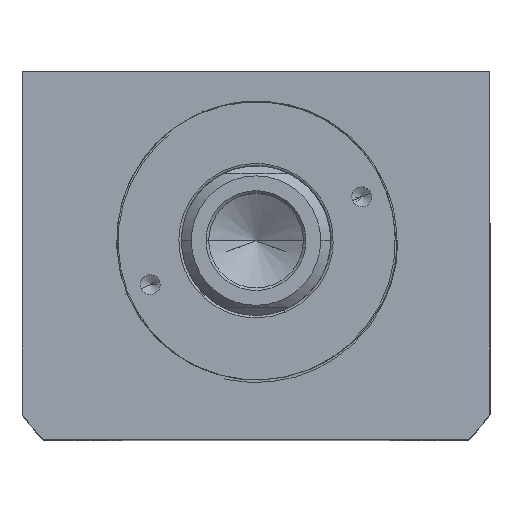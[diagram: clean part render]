
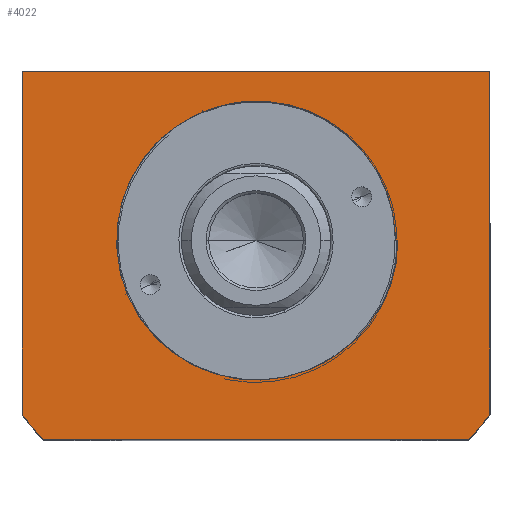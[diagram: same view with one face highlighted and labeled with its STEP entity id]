
A CAD part, top view. The second image highlights one B-rep face of the part: STEP entity #4022.
In plain terms, the highlighted planar face has unit normal (0, 0, 1).
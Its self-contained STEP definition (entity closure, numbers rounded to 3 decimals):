
#25 = CARTESIAN_POINT ( 'NONE',  ( -47., -34.832, 40. ) ) ;
#47 = EDGE_CURVE ( 'NONE', #11275, #2926, #3548, .T. ) ;
#127 = EDGE_CURVE ( 'NONE', #3860, #9846, #1779, .T. ) ;
#278 = PLANE ( 'NONE',  #8967 ) ;
#365 = CARTESIAN_POINT ( 'NONE',  ( 47., -34.832, 40. ) ) ;
#548 = CARTESIAN_POINT ( 'NONE',  ( 15.3, -23.593, 40. ) ) ;
#598 = AXIS2_PLACEMENT_3D ( 'NONE', #1309, #7327, #3037 ) ;
#944 = EDGE_CURVE ( 'NONE', #9662, #2926, #2842, .T. ) ;
#1038 = CARTESIAN_POINT ( 'NONE',  ( 47., 34., 40. ) ) ;
#1051 = ORIENTED_EDGE ( 'NONE', *, *, #4047, .T. ) ;
#1309 = CARTESIAN_POINT ( 'NONE',  ( 0., 0., 40. ) ) ;
#1448 = CARTESIAN_POINT ( 'NONE',  ( 0., 0., 40. ) ) ;
#1462 = CARTESIAN_POINT ( 'NONE',  ( 20.224, -19.631, 40. ) ) ;
#1661 = VERTEX_POINT ( 'NONE', #8148 ) ;
#1709 = EDGE_CURVE ( 'NONE', #11275, #9662, #3507, .T. ) ;
#1710 = ORIENTED_EDGE ( 'NONE', *, *, #47, .F. ) ;
#1779 = LINE ( 'NONE', #8928, #2043 ) ;
#1931 = ORIENTED_EDGE ( 'NONE', *, *, #9216, .T. ) ;
#2004 = FACE_BOUND ( 'NONE', #7456, .T. ) ;
#2043 = VECTOR ( 'NONE', #3757, 1000. ) ;
#2049 = DIRECTION ( 'NONE',  ( 0., 0., -1. ) ) ;
#2288 = CARTESIAN_POINT ( 'NONE',  ( 28.449, -1.419, 40. ) ) ;
#2326 = CARTESIAN_POINT ( 'NONE',  ( 27.887, -5.628, 40. ) ) ;
#2603 = DIRECTION ( 'NONE',  ( -1., 0., 0. ) ) ;
#2679 = CARTESIAN_POINT ( 'NONE',  ( 0., 0., 40. ) ) ;
#2738 = ORIENTED_EDGE ( 'NONE', *, *, #1709, .T. ) ;
#2842 = CIRCLE ( 'NONE', #6343, 28. ) ;
#2888 = DIRECTION ( 'NONE',  ( 1., 0., 0. ) ) ;
#2922 = DIRECTION ( 'NONE',  ( 0., -1., 0. ) ) ;
#2926 = VERTEX_POINT ( 'NONE', #4481 ) ;
#2942 = LINE ( 'NONE', #9912, #5263 ) ;
#2960 = VERTEX_POINT ( 'NONE', #25 ) ;
#3037 = DIRECTION ( 'NONE',  ( 1., 0., 0. ) ) ;
#3114 = CARTESIAN_POINT ( 'NONE',  ( 18.667, -21.077, 40. ) ) ;
#3192 = ORIENTED_EDGE ( 'NONE', *, *, #9465, .T. ) ;
#3227 = CARTESIAN_POINT ( 'NONE',  ( 28.495, 0., 40. ) ) ;
#3420 = CARTESIAN_POINT ( 'NONE',  ( 28.495, 0., 40. ) ) ;
#3507 = B_SPLINE_CURVE_WITH_KNOTS ( 'NONE', 3,
 ( #3227, #9368, #2288, #6657, #9254, #2326, #10068, #4836, #11068, #10909, #10106, #5776, #4870, #1462, #5697, #3114, #10954, #10988, #548, #4049, #10148, #4909, #4121, #8410 ),
 .UNSPECIFIED., .F., .F.,
 ( 4, 2, 2, 2, 2, 2, 2, 2, 2, 2, 2, 4 ),
 ( 0., 0.002, 0.004, 0.009, 0.013, 0.017, 0.021, 0.023, 0.026, 0.03, 0.032, 0.034 ),
 .UNSPECIFIED. ) ;
#3548 = LINE ( 'NONE', #2679, #10234 ) ;
#3737 = DIRECTION ( 'NONE',  ( -1., 0., 0. ) ) ;
#3757 = DIRECTION ( 'NONE',  ( 1., 0., 0. ) ) ;
#3860 = VERTEX_POINT ( 'NONE', #9722 ) ;
#3893 = ORIENTED_EDGE ( 'NONE', *, *, #4291, .T. ) ;
#3911 = LINE ( 'NONE', #5253, #8251 ) ;
#4022 = ADVANCED_FACE ( 'NONE', ( #2004, #7045 ), #278, .T. ) ;
#4047 = EDGE_CURVE ( 'NONE', #9846, #4657, #5000, .T. ) ;
#4049 = CARTESIAN_POINT ( 'NONE',  ( 13.459, -24.624, 40. ) ) ;
#4108 = DIRECTION ( 'NONE',  ( 0., 0., 1. ) ) ;
#4121 = CARTESIAN_POINT ( 'NONE',  ( 10.89, -25.816, 40. ) ) ;
#4140 = CIRCLE ( 'NONE', #4920, 58.5 ) ;
#4291 = EDGE_CURVE ( 'NONE', #1661, #2960, #2942, .T. ) ;
#4481 = CARTESIAN_POINT ( 'NONE',  ( 28., 0., 40. ) ) ;
#4569 = DIRECTION ( 'NONE',  ( 0., 1., 0. ) ) ;
#4657 = VERTEX_POINT ( 'NONE', #365 ) ;
#4684 = CARTESIAN_POINT ( 'NONE',  ( 42.688, -40., 40. ) ) ;
#4720 = DIRECTION ( 'NONE',  ( 1., 0., 0. ) ) ;
#4836 = CARTESIAN_POINT ( 'NONE',  ( 26.694, -9.657, 40. ) ) ;
#4870 = CARTESIAN_POINT ( 'NONE',  ( 21.684, -18.094, 40. ) ) ;
#4909 = CARTESIAN_POINT ( 'NONE',  ( 11.542, -25.544, 40. ) ) ;
#4920 = AXIS2_PLACEMENT_3D ( 'NONE', #1448, #4108, #6717 ) ;
#5000 = CIRCLE ( 'NONE', #598, 58.5 ) ;
#5238 = ORIENTED_EDGE ( 'NONE', *, *, #127, .T. ) ;
#5253 = CARTESIAN_POINT ( 'NONE',  ( -47., 34., 40. ) ) ;
#5263 = VECTOR ( 'NONE', #2922, 1000. ) ;
#5552 = ORIENTED_EDGE ( 'NONE', *, *, #6666, .T. ) ;
#5697 = CARTESIAN_POINT ( 'NONE',  ( 19.714, -20.129, 40. ) ) ;
#5776 = CARTESIAN_POINT ( 'NONE',  ( 22.571, -17.007, 40. ) ) ;
#6165 = LINE ( 'NONE', #1038, #8894 ) ;
#6343 = AXIS2_PLACEMENT_3D ( 'NONE', #7287, #2049, #4720 ) ;
#6344 = CARTESIAN_POINT ( 'NONE',  ( 0., 0., 40. ) ) ;
#6657 = CARTESIAN_POINT ( 'NONE',  ( 28.323, -2.832, 40. ) ) ;
#6666 = EDGE_CURVE ( 'NONE', #10544, #1661, #3911, .T. ) ;
#6717 = DIRECTION ( 'NONE',  ( 1., 0., 0. ) ) ;
#7045 = FACE_OUTER_BOUND ( 'NONE', #8459, .T. ) ;
#7287 = CARTESIAN_POINT ( 'NONE',  ( 0., 0., 40. ) ) ;
#7327 = DIRECTION ( 'NONE',  ( 0., 0., 1. ) ) ;
#7456 = EDGE_LOOP ( 'NONE', ( #1710, #2738, #8875 ) ) ;
#7758 = CARTESIAN_POINT ( 'NONE',  ( 10.232, -26.064, 40. ) ) ;
#8108 = DIRECTION ( 'NONE',  ( 0., 0., 1. ) ) ;
#8148 = CARTESIAN_POINT ( 'NONE',  ( -47., 34., 40. ) ) ;
#8251 = VECTOR ( 'NONE', #3737, 1000. ) ;
#8410 = CARTESIAN_POINT ( 'NONE',  ( 10.232, -26.064, 40. ) ) ;
#8459 = EDGE_LOOP ( 'NONE', ( #5552, #3893, #1931, #5238, #1051, #3192 ) ) ;
#8875 = ORIENTED_EDGE ( 'NONE', *, *, #944, .T. ) ;
#8894 = VECTOR ( 'NONE', #4569, 1000. ) ;
#8928 = CARTESIAN_POINT ( 'NONE',  ( 42.688, -40., 40. ) ) ;
#8967 = AXIS2_PLACEMENT_3D ( 'NONE', #6344, #8108, #2888 ) ;
#9216 = EDGE_CURVE ( 'NONE', #2960, #3860, #4140, .T. ) ;
#9254 = CARTESIAN_POINT ( 'NONE',  ( 28.233, -3.538, 40. ) ) ;
#9368 = CARTESIAN_POINT ( 'NONE',  ( 28.485, -0.71, 40. ) ) ;
#9465 = EDGE_CURVE ( 'NONE', #4657, #10544, #6165, .T. ) ;
#9662 = VERTEX_POINT ( 'NONE', #7758 ) ;
#9722 = CARTESIAN_POINT ( 'NONE',  ( -42.688, -40., 40. ) ) ;
#9846 = VERTEX_POINT ( 'NONE', #4684 ) ;
#9912 = CARTESIAN_POINT ( 'NONE',  ( -47., -34.832, 40. ) ) ;
#10008 = CARTESIAN_POINT ( 'NONE',  ( 47., 34., 40. ) ) ;
#10068 = CARTESIAN_POINT ( 'NONE',  ( 27.555, -6.99, 40. ) ) ;
#10106 = CARTESIAN_POINT ( 'NONE',  ( 24.178, -14.712, 40. ) ) ;
#10148 = CARTESIAN_POINT ( 'NONE',  ( 12.831, -24.945, 40. ) ) ;
#10234 = VECTOR ( 'NONE', #2603, 1000. ) ;
#10544 = VERTEX_POINT ( 'NONE', #10008 ) ;
#10909 = CARTESIAN_POINT ( 'NONE',  ( 24.898, -13.504, 40. ) ) ;
#10954 = CARTESIAN_POINT ( 'NONE',  ( 18.129, -21.529, 40. ) ) ;
#10988 = CARTESIAN_POINT ( 'NONE',  ( 16.467, -22.819, 40. ) ) ;
#11068 = CARTESIAN_POINT ( 'NONE',  ( 26.163, -10.961, 40. ) ) ;
#11275 = VERTEX_POINT ( 'NONE', #3420 ) ;
